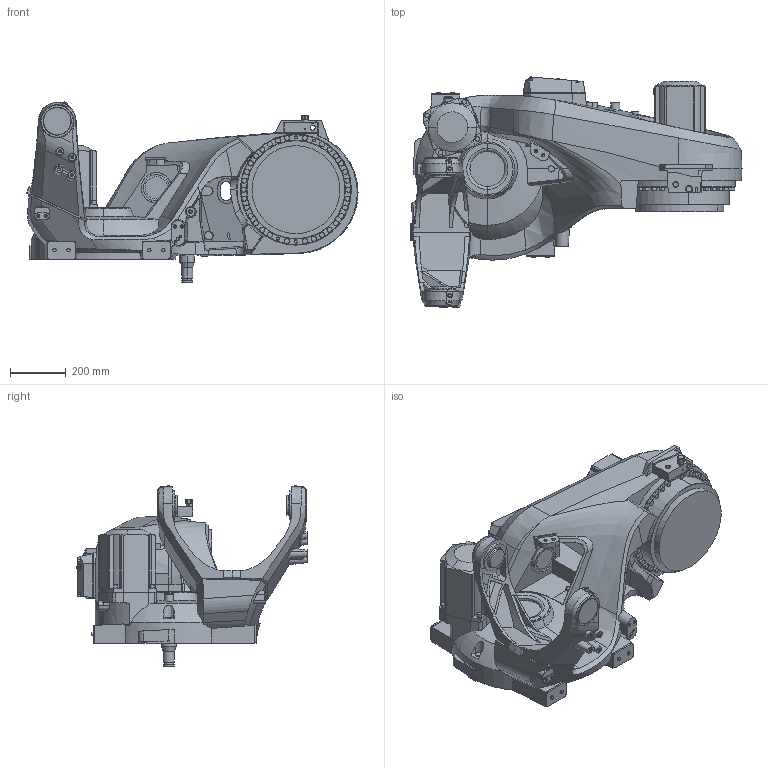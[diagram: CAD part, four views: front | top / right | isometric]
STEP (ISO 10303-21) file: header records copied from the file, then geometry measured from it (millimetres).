
FILE_DESCRIPTION (( 'STEP AP214' ), '1' );
FILE_NAME ('IRB6730S_All_OC_00_LINK01_CAD.step', '2026-05-26T10:33:43', ( '' ), ( '' ), 'SwSTEP 2.0', 'SolidWorks 2024', '' );
FILE_SCHEMA (( 'AUTOMOTIVE_DESIGN' ));
Length unit declared in the file: millimetre
Products named in the file (1): IRB6730S_All_OC_00_LINK01_CAD
Bounding box: 1189.82 x 825.3 x 646.66 mm (x, y, z)
Volume: 98711525 mm3; surface area: 3865942 mm2
Topology: 5 solids, 5 shells, 2138 faces, 5565 edges, 3520 vertices
Faces by surface type: plane 836, cone 502, cylinder 454, bspline 245, torus 97, sphere 4
Entity records: 124418 total; most frequent: CARTESIAN_POINT 73192, ORIENTED_EDGE 10952, DIRECTION 9423, EDGE_CURVE 5476, AXIS2_PLACEMENT_3D 3547, VERTEX_POINT 3520, EDGE_LOOP 2330, VECTOR 2329
